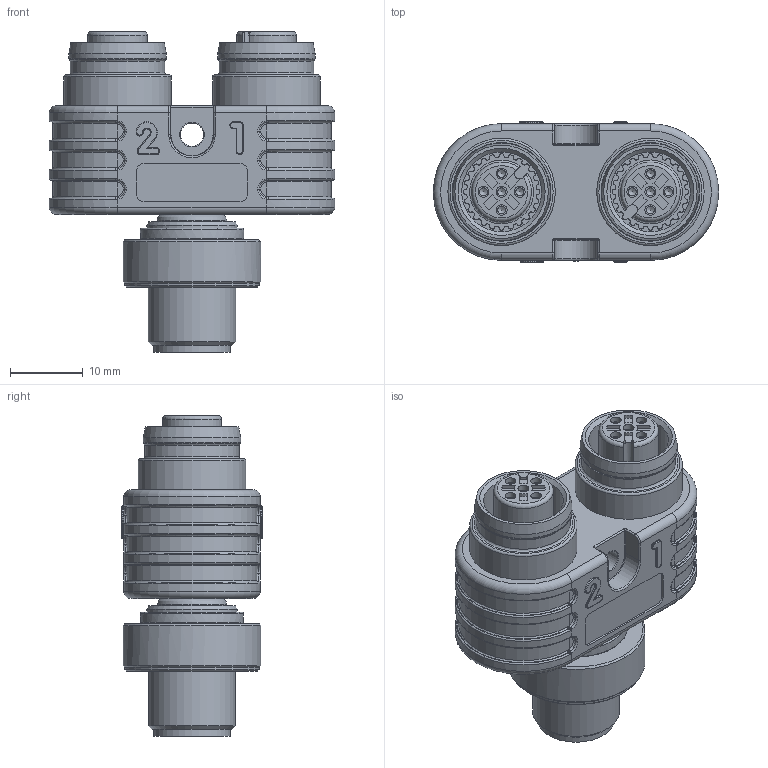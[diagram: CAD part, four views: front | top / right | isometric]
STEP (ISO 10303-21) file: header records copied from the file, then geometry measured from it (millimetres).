
FILE_DESCRIPTION((''),'2;1');
FILE_NAME('C:\TurckZip\U2-07374.stp','2011-04-11T14:39:21',('IKOROL'),(''),'Autodesk Inventor 2010','Autodesk Inventor 2010','');
FILE_SCHEMA(('CONFIG_CONTROL_DESIGN'));
Length unit declared in the file: millimetre
Products named in the file (1): Part4
Bounding box: 39.3 x 19.32 x 44.2 mm (x, y, z)
Volume: 13798.4 mm3; surface area: 9356.5 mm2
Topology: 6 solids, 21 shells, 1329 faces, 3378 edges, 2151 vertices
Faces by surface type: cylinder 524, plane 353, bspline 340, torus 73, cone 39
Full cylindrical faces by diameter (mm): 0.1 x1, 1 x16, 1.2 x4, 1.6 x10, 1.8 x12, 3 x1, 3.2 x1, 9.6 x1, 9.9 x1, 10 x1, 10.5 x1, 10.7 x1, 11 x2, 12 x1, 12.5 x1, 13 x2, 13.4 x2, 14.2 x1, 14.8 x2, 18.5 x1, 19 x1
Entity records: 45522 total; most frequent: CARTESIAN_POINT 12902, DIRECTION 6949, ORIENTED_EDGE 6356, EDGE_CURVE 3178, AXIS2_PLACEMENT_3D 2925, VERTEX_POINT 2082, CIRCLE 1935, EDGE_LOOP 1566
